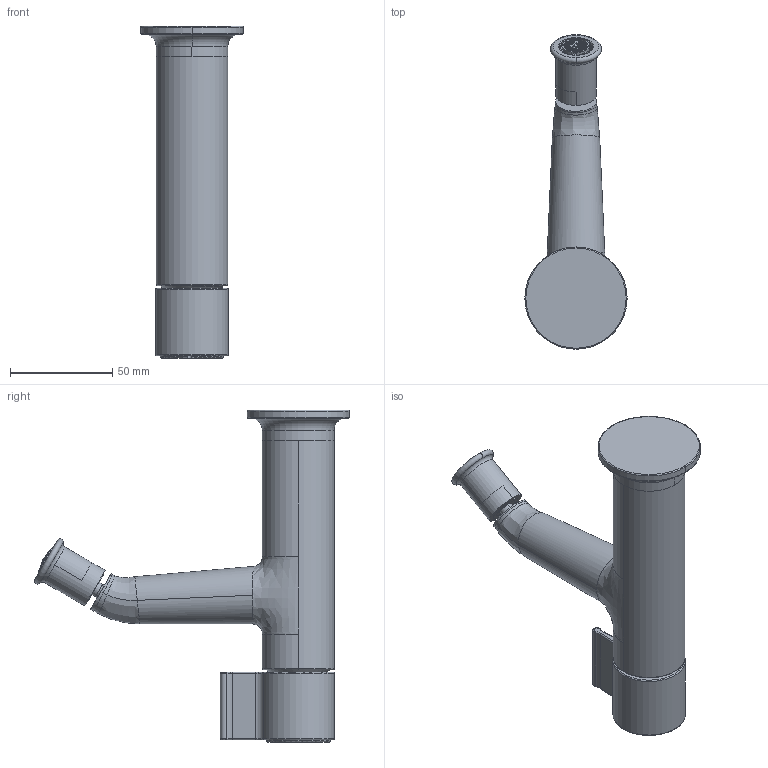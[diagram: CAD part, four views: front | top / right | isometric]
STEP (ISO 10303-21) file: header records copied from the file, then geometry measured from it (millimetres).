
FILE_DESCRIPTION((''),'2;1');
FILE_NAME('76000J708WF00000_SW0001','2025-02-24T11:45:09',('cristian.dorz'),(''),'CREO PARAMETRIC BY PTC INC, 2022281','CREO PARAMETRIC BY PTC INC, 2022281','');
FILE_SCHEMA(('AUTOMOTIVE_DESIGN { 1 0 10303 214 1 1 1 1 }'));
Length unit declared in the file: millimetre
Products named in the file (1): 76000J708WF00000_SW0001
Bounding box: 50 x 153.82 x 162.2 mm (x, y, z)
Volume: 214016.9 mm3; surface area: 32879 mm2
Topology: 1 solids, 3 shells, 532 faces, 1376 edges, 908 vertices
Faces by surface type: plane 433, cylinder 38, torus 34, bspline 20, cone 5, sphere 2
Entity records: 22579 total; most frequent: CARTESIAN_POINT 5708, DIRECTION 2897, ORIENTED_EDGE 2752, EDGE_CURVE 1376, AXIS2_PLACEMENT_3D 1057, VERTEX_POINT 908, VECTOR 780, LINE 780
